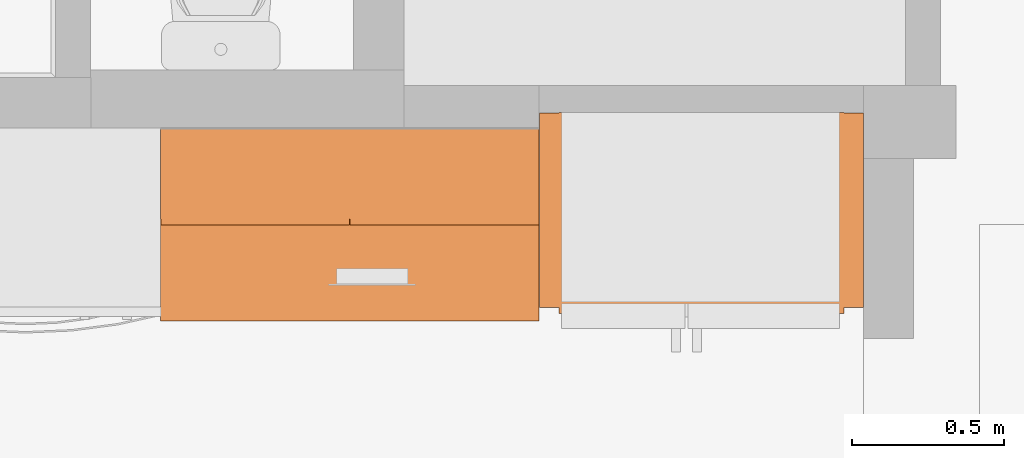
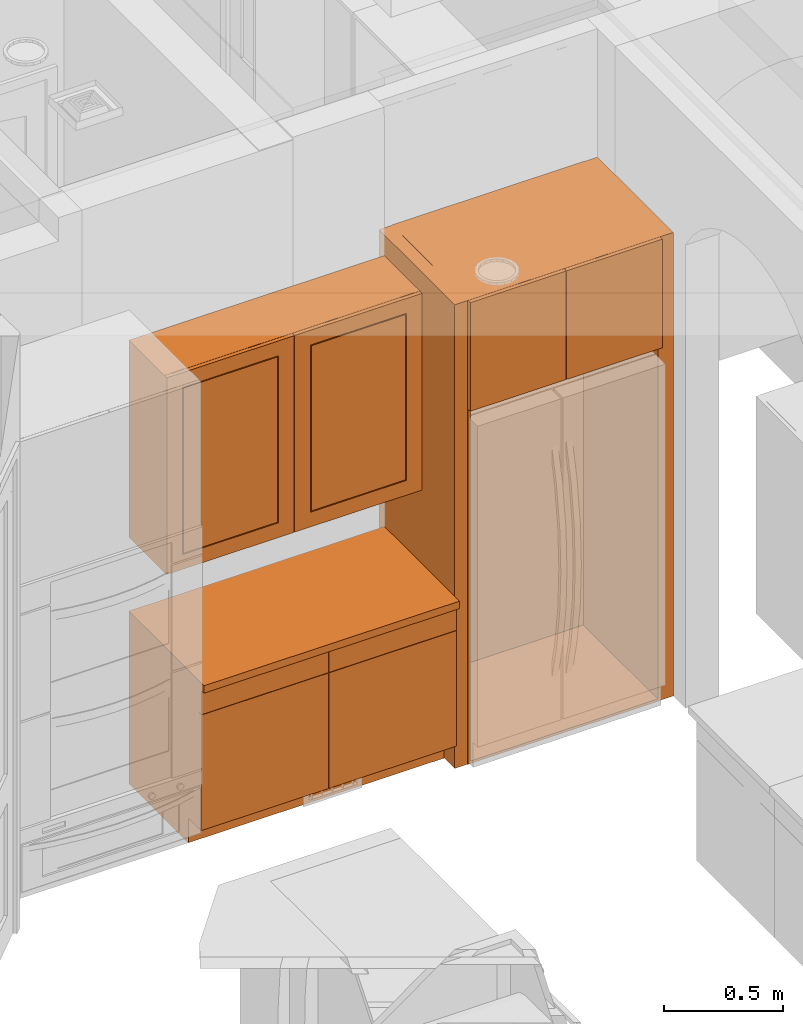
# One storey, part 68 of 77: 3 proxies.
"""IFC2X3 building model written with IfcOpenShell, lengths in inches."""

from ifc_helpers import new_model, entity, si_unit, converted_unit, derived_unit, money_unit, direction, frame, origin_with_axes, place, context, subcontext, project, spatial, faceted_brep, type_object, element, save


model = new_model("IFC2X3")

# Units and contexts
model_context = context("Model", 3, precision=0.000393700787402, world=origin_with_axes(), true_north=direction((0.0, 1.0)))
body_context = subcontext(model_context, "Body", "Model", "MODEL_VIEW")
ifc_project = project(units=[converted_unit("LENGTHUNIT", "INCH", entity("IfcPositiveLengthMeasure", 0.0254), si_unit("LENGTHUNIT", "METRE"), dimensions=[1, 0, 0, 0, 0, 0, 0]), converted_unit("AREAUNIT", "SQUARE_FOOT", entity("IfcPositiveLengthMeasure", 0.09290304), si_unit("AREAUNIT", "SQUARE_METRE"), dimensions=[2, 0, 0, 0, 0, 0, 0]), si_unit("PLANEANGLEUNIT", "RADIAN"), si_unit("SOLIDANGLEUNIT", "STERADIAN"), money_unit("USD"), converted_unit("TIMEUNIT", "Year", entity("IfcTimeMeasure", 31556926.0), si_unit("TIMEUNIT", "SECOND"), dimensions=[0, 0, 1, 0, 0, 0, 0]), si_unit("MASSUNIT", "GRAM", prefix="KILO"), si_unit("THERMODYNAMICTEMPERATUREUNIT", "DEGREE_CELSIUS"), si_unit("LUMINOUSINTENSITYUNIT", "LUMEN"), si_unit("ENERGYUNIT", "JOULE", prefix="MEGA"), derived_unit("THERMALCONDUCTANCEUNIT", [(si_unit("POWERUNIT", "WATT"), 1), (si_unit("LENGTHUNIT", "METRE"), -1), (si_unit("THERMODYNAMICTEMPERATUREUNIT", "KELVIN"), -1)]), derived_unit("SPECIFICHEATCAPACITYUNIT", [(si_unit("ENERGYUNIT", "JOULE"), 1), (si_unit("MASSUNIT", "GRAM", prefix="KILO"), -1), (si_unit("THERMODYNAMICTEMPERATUREUNIT", "KELVIN"), -1)]), derived_unit("MASSDENSITYUNIT", [(si_unit("MASSUNIT", "GRAM", prefix="KILO"), 1), (si_unit("VOLUMEUNIT", "CUBIC_METRE"), -1)])], contexts=[model_context])

# Site, building, storey
site_placement = place(None, origin_with_axes())
site = spatial("IfcSite", under=ifc_project, at=site_placement, Name="Site", CompositionType="ELEMENT")
building_placement = place(site_placement, origin_with_axes())
building = spatial("IfcBuilding", under=site, at=building_placement, Name="Building", CompositionType="ELEMENT")
storey_placement = place(building_placement, frame((0.0, 0.0, 127.952755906), z_axis=(0.0, 0.0, 1.0), x_axis=(1.0, 0.0, 0.0)))
storey = spatial("IfcBuildingStorey", under=building, at=storey_placement, Name="Second Floor", CompositionType="ELEMENT", Elevation=127.953)

# Proxies
building_element_proxy_type_1 = type_object("IfcBuildingElementProxyType", Name="Base Cabinet Block 25", PredefinedType="NOTDEFINED")
proxy_1_placement = place(storey_placement, frame((546.489615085, 408.408081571, 0.0), z_axis=(0.0, 0.0, 1.0), x_axis=(1.0, 0.0, 0.0)))
element("IfcBuildingElementProxy", 1, at=proxy_1_placement, inside=storey, type_object=building_element_proxy_type_1, Name="OBJ-16", context=body_context, shape_type="Brep", body=[
    faceted_brep([(0.0, -25.0, 33.5393700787), (49.0, -25.0, 33.5393700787), (49.0, -25.0, 35.0393700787), (0.0, -25.0, 35.0393700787), (0.0, 0.0, 33.5393700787), (49.0, 0.0, 33.5393700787), (49.0, 0.0, 35.0393700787), (0.0, 0.0, 35.0393700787)], [[[0, 1, 2, 3]], [[0, 4, 5, 1]], [[1, 5, 6, 2]], [[3, 2, 6, 7]], [[4, 0, 3, 7]], [[5, 4, 7, 6]]]),
    faceted_brep([(0.75, -23.25, 28.1289370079), (48.25, -23.25, 28.1289370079), (48.25, -23.25, 28.8789370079), (0.75, -23.25, 28.8789370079), (0.75, -0.75, 28.1289370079), (48.25, -0.75, 28.1289370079), (48.25, -0.75, 28.8789370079), (0.75, -0.75, 28.8789370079)], [[[0, 1, 2, 3]], [[0, 4, 5, 1]], [[1, 5, 6, 2]], [[3, 2, 6, 7]], [[4, 0, 3, 7]], [[5, 4, 7, 6]]]),
    faceted_brep([(0.0393700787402, -23.25, 5.03937007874), (24.4606299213, -23.25, 5.03937007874), (24.4606299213, -24.0, 5.03937007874), (0.0393700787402, -24.0, 5.03937007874), (0.0393700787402, -23.25, 28.4645669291), (24.4606299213, -23.25, 28.4645669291), (24.4606299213, -24.0, 28.4645669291), (0.0393700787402, -24.0, 28.4645669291)], [[[0, 1, 2, 3]], [[0, 4, 5, 1]], [[1, 5, 6, 2]], [[3, 2, 6, 7]], [[4, 0, 3, 7]], [[5, 4, 7, 6]]]),
    faceted_brep([(48.9606299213, -23.25, 5.03937007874), (48.9606299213, -24.0, 5.03937007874), (24.5393700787, -24.0, 5.03937007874), (24.5393700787, -23.25, 5.03937007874), (48.9606299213, -23.25, 28.4645669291), (48.9606299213, -24.0, 28.4645669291), (24.5393700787, -24.0, 28.4645669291), (24.5393700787, -23.25, 28.4645669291)], [[[0, 1, 2, 3]], [[4, 5, 1, 0]], [[1, 5, 6, 2]], [[3, 2, 6, 7]], [[0, 3, 7, 4]], [[7, 6, 5, 4]]]),
    faceted_brep([(0.0393700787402, -23.25, 28.5433070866), (24.4606299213, -23.25, 28.5433070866), (24.4606299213, -24.0, 28.5433070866), (0.0393700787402, -24.0, 28.5433070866), (0.0393700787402, -23.25, 33.5), (24.4606299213, -23.25, 33.5), (24.4606299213, -24.0, 33.5), (0.0393700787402, -24.0, 33.5)], [[[0, 1, 2, 3]], [[0, 4, 5, 1]], [[1, 5, 6, 2]], [[3, 2, 6, 7]], [[4, 0, 3, 7]], [[5, 4, 7, 6]]]),
    faceted_brep([(48.9606299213, -23.25, 28.5433070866), (48.9606299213, -24.0, 28.5433070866), (24.5393700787, -24.0, 28.5433070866), (24.5393700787, -23.25, 28.5433070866), (48.9606299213, -23.25, 33.5), (48.9606299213, -24.0, 33.5), (24.5393700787, -24.0, 33.5), (24.5393700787, -23.25, 33.5)], [[[0, 1, 2, 3]], [[4, 5, 1, 0]], [[1, 5, 6, 2]], [[3, 2, 6, 7]], [[0, 3, 7, 4]], [[7, 6, 5, 4]]]),
    faceted_brep([(0.75, -23.25, 5.0), (48.25, -23.25, 5.0), (48.25, -23.25, 5.75), (0.75, -23.25, 5.75), (0.75, 0.0, 5.0), (48.25, 0.0, 5.0), (48.25, 0.0, 5.75), (0.75, 0.0, 5.75)], [[[0, 1, 2, 3]], [[0, 4, 5, 1]], [[1, 5, 6, 2]], [[3, 2, 6, 7]], [[4, 0, 3, 7]], [[5, 4, 7, 6]]]),
    faceted_brep([(0.75, -23.25, 32.7893700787), (0.75, -20.8877952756, 32.7893700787), (48.25, -20.8877952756, 32.7893700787), (48.25, -23.25, 32.7893700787), (0.75, -23.25, 33.5393700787), (0.75, -20.8877952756, 33.5393700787), (48.25, -20.8877952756, 33.5393700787), (48.25, -23.25, 33.5393700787)], [[[0, 1, 2, 3]], [[0, 4, 5, 1]], [[1, 5, 6, 2]], [[3, 2, 6, 7]], [[4, 0, 3, 7]], [[5, 4, 7, 6]]]),
    faceted_brep([(48.25, 0.0, 32.7893700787), (48.25, -2.36220472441, 32.7893700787), (0.75, -2.36220472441, 32.7893700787), (0.75, 0.0, 32.7893700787), (48.25, 0.0, 33.5393700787), (48.25, -2.36220472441, 33.5393700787), (0.75, -2.36220472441, 33.5393700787), (0.75, 0.0, 33.5393700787)], [[[0, 1, 2, 3]], [[0, 4, 5, 1]], [[1, 5, 6, 2]], [[3, 2, 6, 7]], [[4, 0, 3, 7]], [[5, 4, 7, 6]]]),
    faceted_brep([(0.0, 0.0, 5.0), (0.0, -23.25, 5.0), (0.0, -23.25, 33.5393700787), (0.0, 0.0, 33.5393700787), (0.75, 0.0, 5.0), (0.75, -23.25, 5.0), (0.75, -23.25, 33.5393700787), (0.75, 0.0, 33.5393700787)], [[[0, 1, 2, 3]], [[0, 4, 5, 1]], [[1, 5, 6, 2]], [[3, 2, 6, 7]], [[4, 0, 3, 7]], [[5, 4, 7, 6]]]),
    faceted_brep([(49.0, -23.25, 5.0), (49.0, 0.0, 5.0), (49.0, 0.0, 33.5393700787), (49.0, -23.25, 33.5393700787), (48.25, -23.25, 5.0), (48.25, 0.0, 5.0), (48.25, 0.0, 33.5393700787), (48.25, -23.25, 33.5393700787)], [[[0, 1, 2, 3]], [[0, 4, 5, 1]], [[1, 5, 6, 2]], [[3, 2, 6, 7]], [[4, 0, 3, 7]], [[5, 4, 7, 6]]]),
    faceted_brep([(48.25, -0.375, 5.75), (0.75, -0.375, 5.75), (0.75, -0.375, 32.7893700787), (48.25, -0.375, 32.7893700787), (48.25, -0.75, 5.75), (0.75, -0.75, 5.75), (0.75, -0.75, 32.7893700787), (48.25, -0.75, 32.7893700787)], [[[0, 1, 2, 3]], [[0, 4, 5, 1]], [[1, 5, 6, 2]], [[3, 2, 6, 7]], [[4, 0, 3, 7]], [[5, 4, 7, 6]]]),
    faceted_brep([(0.0, -19.75, 0.0), (49.0, -19.75, 0.0), (49.0, -19.75, 5.0), (0.0, -19.75, 5.0), (0.0, 0.0, 0.0), (49.0, 0.0, 0.0), (49.0, 0.0, 5.0), (0.0, 0.0, 5.0)], [[[0, 1, 2, 3]], [[0, 4, 5, 1]], [[1, 5, 6, 2]], [[3, 2, 6, 7]], [[4, 0, 3, 7]], [[5, 4, 7, 6]]]),
])
building_element_proxy_type_2 = type_object("IfcBuildingElementProxyType", Name="Standing Cabinet Block 25", PredefinedType="NOTDEFINED")
proxy_2_placement = place(storey_placement, frame((595.552993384, 410.361283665, 0.0), z_axis=(0.0, 0.0, 1.0), x_axis=(1.0, 0.0, 0.0)))
element("IfcBuildingElementProxy", 2, at=proxy_2_placement, inside=storey, type_object=building_element_proxy_type_2, Name="OBJ-17", context=body_context, shape_type="Brep", body=[
    faceted_brep([(3.0, -25.25, 71.75), (38.9291338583, -25.25, 71.75), (38.9291338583, -25.25, 72.25), (3.0, -25.25, 72.25), (3.0, -0.5, 71.75), (38.9291338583, -0.5, 71.75), (38.9291338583, -0.5, 72.25), (3.0, -0.5, 72.25)], [[[0, 1, 2, 3]], [[0, 4, 5, 1]], [[1, 5, 6, 2]], [[3, 2, 6, 7]], [[4, 0, 3, 7]], [[5, 4, 7, 6]]]),
    faceted_brep([(2.53937007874, -25.25, 72.0393700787), (20.9251968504, -25.25, 72.0393700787), (20.9251968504, -26.0, 72.0393700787), (2.53937007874, -26.0, 72.0393700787), (2.53937007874, -25.25, 94.0551181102), (20.9251968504, -25.25, 94.0551181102), (20.9251968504, -26.0, 94.0551181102), (2.53937007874, -26.0, 94.0551181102)], [[[0, 1, 2, 3]], [[0, 4, 5, 1]], [[1, 5, 6, 2]], [[3, 2, 6, 7]], [[4, 0, 3, 7]], [[5, 4, 7, 6]]]),
    faceted_brep([(39.3897637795, -25.25, 72.0393700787), (39.3897637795, -26.0, 72.0393700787), (21.0039370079, -26.0, 72.0393700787), (21.0039370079, -25.25, 72.0393700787), (39.3897637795, -25.25, 94.0551181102), (39.3897637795, -26.0, 94.0551181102), (21.0039370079, -26.0, 94.0551181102), (21.0039370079, -25.25, 94.0551181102)], [[[0, 1, 2, 3]], [[4, 5, 1, 0]], [[1, 5, 6, 2]], [[3, 2, 6, 7]], [[0, 3, 7, 4]], [[7, 6, 5, 4]]]),
    faceted_brep([(2.5, -0.0393700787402, 0.0393700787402), (2.5, -25.2106299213, 0.0393700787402), (0.0, -25.2106299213, 0.0393700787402), (0.0, -0.0393700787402, 0.0393700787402), (2.5, -0.0393700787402, 94.0551181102), (2.5, -25.2106299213, 94.0551181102), (0.0, -25.2106299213, 94.0551181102), (0.0, -0.0393700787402, 94.0551181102)], [[[0, 1, 2, 3]], [[0, 4, 5, 1]], [[1, 5, 6, 2]], [[3, 2, 6, 7]], [[4, 0, 3, 7]], [[5, 4, 7, 6]]]),
    faceted_brep([(39.4291338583, -25.2106299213, 0.0393700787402), (39.4291338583, -0.0393700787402, 0.0393700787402), (41.9291338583, -0.0393700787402, 0.0393700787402), (41.9291338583, -25.2106299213, 0.0393700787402), (39.4291338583, -25.2106299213, 94.0551181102), (39.4291338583, -0.0393700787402, 94.0551181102), (41.9291338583, -0.0393700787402, 94.0551181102), (41.9291338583, -25.2106299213, 94.0551181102)], [[[0, 1, 2, 3]], [[0, 4, 5, 1]], [[1, 5, 6, 2]], [[3, 2, 6, 7]], [[4, 0, 3, 7]], [[5, 4, 7, 6]]]),
    faceted_brep([(3.0, -25.25, 0.0), (38.9291338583, -25.25, 0.0), (38.9291338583, -25.25, 0.5), (3.0, -25.25, 0.5), (3.0, 0.0, 0.0), (38.9291338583, 0.0, 0.0), (38.9291338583, 0.0, 0.5), (3.0, 0.0, 0.5)], [[[0, 1, 2, 3]], [[0, 4, 5, 1]], [[1, 5, 6, 2]], [[3, 2, 6, 7]], [[4, 0, 3, 7]], [[5, 4, 7, 6]]]),
    faceted_brep([(3.0, -25.25, 93.594488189), (38.9291338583, -25.25, 93.594488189), (38.9291338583, -25.25, 94.094488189), (3.0, -25.25, 94.094488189), (3.0, 0.0, 93.594488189), (38.9291338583, 0.0, 93.594488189), (38.9291338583, 0.0, 94.094488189), (3.0, 0.0, 94.094488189)], [[[0, 1, 2, 3]], [[0, 4, 5, 1]], [[1, 5, 6, 2]], [[3, 2, 6, 7]], [[4, 0, 3, 7]], [[5, 4, 7, 6]]]),
    faceted_brep([(2.5, 0.0, 0.0), (2.5, -25.25, 0.0), (2.5, -25.25, 94.094488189), (2.5, 0.0, 94.094488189), (3.0, 0.0, 0.0), (3.0, -25.25, 0.0), (3.0, -25.25, 94.094488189), (3.0, 0.0, 94.094488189)], [[[0, 1, 2, 3]], [[0, 4, 5, 1]], [[1, 5, 6, 2]], [[3, 2, 6, 7]], [[4, 0, 3, 7]], [[5, 4, 7, 6]]]),
    faceted_brep([(39.4291338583, -25.25, 0.0), (39.4291338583, 0.0, 0.0), (39.4291338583, 0.0, 94.094488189), (39.4291338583, -25.25, 94.094488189), (38.9291338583, -25.25, 0.0), (38.9291338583, 0.0, 0.0), (38.9291338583, 0.0, 94.094488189), (38.9291338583, -25.25, 94.094488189)], [[[0, 1, 2, 3]], [[0, 4, 5, 1]], [[1, 5, 6, 2]], [[3, 2, 6, 7]], [[4, 0, 3, 7]], [[5, 4, 7, 6]]]),
    faceted_brep([(38.9291338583, -0.25, 0.5), (3.0, -0.25, 0.5), (3.0, -0.25, 93.594488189), (38.9291338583, -0.25, 93.594488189), (38.9291338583, -0.5, 0.5), (3.0, -0.5, 0.5), (3.0, -0.5, 93.594488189), (38.9291338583, -0.5, 93.594488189)], [[[0, 1, 2, 3]], [[0, 4, 5, 1]], [[1, 5, 6, 2]], [[3, 2, 6, 7]], [[4, 0, 3, 7]], [[5, 4, 7, 6]]]),
])
building_element_proxy_type_3 = type_object("IfcBuildingElementProxyType", Name="Wall Cabinet Block 25", PredefinedType="NOTDEFINED")
proxy_3_placement = place(storey_placement, frame((546.489615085, 408.408081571, -10.0), z_axis=(0.0, 0.0, 1.0), x_axis=(1.0, 0.0, 0.0)))
element("IfcBuildingElementProxy", 3, at=proxy_3_placement, inside=storey, type_object=building_element_proxy_type_3, Name="OBJ-21", context=body_context, shape_type="Brep", body=[
    faceted_brep([(0.75, -11.811023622, 73.0702099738), (48.25, -11.811023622, 73.0702099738), (48.25, -11.811023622, 73.8202099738), (0.75, -11.811023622, 73.8202099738), (0.75, -0.75, 73.0702099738), (48.25, -0.75, 73.0702099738), (48.25, -0.75, 73.8202099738), (0.75, -0.75, 73.8202099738)], [[[0, 1, 2, 3]], [[0, 4, 5, 1]], [[1, 5, 6, 2]], [[3, 2, 6, 7]], [[4, 0, 3, 7]], [[5, 4, 7, 6]]]),
    faceted_brep([(0.75, -11.811023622, 86.1404199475), (48.25, -11.811023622, 86.1404199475), (48.25, -11.811023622, 86.8904199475), (0.75, -11.811023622, 86.8904199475), (0.75, -0.75, 86.1404199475), (48.25, -0.75, 86.1404199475), (48.25, -0.75, 86.8904199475), (0.75, -0.75, 86.8904199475)], [[[0, 1, 2, 3]], [[0, 4, 5, 1]], [[1, 5, 6, 2]], [[3, 2, 6, 7]], [[4, 0, 3, 7]], [[5, 4, 7, 6]]]),
    faceted_brep([(0.0393700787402, -12.561023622, 60.0393700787), (0.0393700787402, -12.561023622, 99.9212598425), (0.0393700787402, -11.811023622, 99.9212598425), (0.0393700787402, -11.811023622, 60.0393700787), (3.03937007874, -12.561023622, 63.0393700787), (3.03937007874, -12.561023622, 96.9212598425), (3.03937007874, -11.811023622, 96.9212598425), (3.03937007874, -11.811023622, 63.0393700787)], [[[0, 1, 2, 3]], [[1, 0, 4, 5]], [[2, 1, 5, 6]], [[3, 2, 6, 7]], [[0, 3, 7, 4]], [[5, 4, 7, 6]]]),
    faceted_brep([(21.4606299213, -12.561023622, 63.0393700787), (21.4606299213, -12.561023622, 96.9212598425), (21.4606299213, -11.811023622, 96.9212598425), (21.4606299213, -11.811023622, 63.0393700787), (24.4606299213, -12.561023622, 60.0393700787), (24.4606299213, -12.561023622, 99.9212598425), (24.4606299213, -11.811023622, 99.9212598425), (24.4606299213, -11.811023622, 60.0393700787)], [[[0, 1, 2, 3]], [[1, 0, 4, 5]], [[2, 1, 5, 6]], [[3, 2, 6, 7]], [[0, 3, 7, 4]], [[5, 4, 7, 6]]]),
    faceted_brep([(0.0393700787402, -11.811023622, 60.0393700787), (0.0393700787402, -12.561023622, 60.0393700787), (3.03937007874, -12.561023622, 63.0393700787), (3.03937007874, -11.811023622, 63.0393700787), (24.4606299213, -11.811023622, 60.0393700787), (24.4606299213, -12.561023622, 60.0393700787), (21.4606299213, -12.561023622, 63.0393700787), (21.4606299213, -11.811023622, 63.0393700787)], [[[0, 1, 2, 3]], [[1, 0, 4, 5]], [[2, 1, 5, 6]], [[7, 3, 2, 6]], [[0, 3, 7, 4]], [[7, 6, 5, 4]]]),
    faceted_brep([(21.4606299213, -11.811023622, 96.9212598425), (3.03937007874, -11.811023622, 96.9212598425), (0.0393700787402, -11.811023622, 99.9212598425), (24.4606299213, -11.811023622, 99.9212598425), (21.4606299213, -12.561023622, 96.9212598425), (3.03937007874, -12.561023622, 96.9212598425), (0.0393700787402, -12.561023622, 99.9212598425), (24.4606299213, -12.561023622, 99.9212598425)], [[[0, 1, 2, 3]], [[1, 0, 4, 5]], [[5, 6, 2, 1]], [[2, 6, 7, 3]], [[4, 0, 3, 7]], [[6, 5, 4, 7]]]),
    faceted_brep([(3.03937007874, -11.998523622, 63.0393700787), (3.03937007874, -11.998523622, 96.9212598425), (21.4606299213, -11.998523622, 96.9212598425), (21.4606299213, -11.998523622, 63.0393700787), (3.0393700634, -12.373523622, 63.0393700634), (3.0393700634, -12.373523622, 96.9212598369), (21.4606299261, -12.373523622, 96.9212598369), (21.4606299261, -12.373523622, 63.0393700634), (3.22687004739, -12.561023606, 63.2268700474), (3.22687004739, -12.561023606, 96.7337598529), (21.2731299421, -12.561023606, 96.7337598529), (21.2731299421, -12.561023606, 63.2268700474)], [[[0, 1, 2, 3]], [[1, 0, 4, 5]], [[2, 1, 5, 6]], [[3, 2, 6, 7]], [[0, 3, 7, 4]], [[5, 4, 8, 9]], [[6, 5, 9, 10]], [[7, 6, 10, 11]], [[4, 7, 11, 8]], [[10, 9, 8, 11]]]),
    faceted_brep([(45.9606299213, -12.561023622, 63.0393700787), (45.9606299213, -12.561023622, 96.9212598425), (45.9606299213, -11.811023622, 96.9212598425), (45.9606299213, -11.811023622, 63.0393700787), (48.9606299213, -12.561023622, 60.0393700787), (48.9606299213, -12.561023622, 99.9212598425), (48.9606299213, -11.811023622, 99.9212598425), (48.9606299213, -11.811023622, 60.0393700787)], [[[0, 1, 2, 3]], [[1, 0, 4, 5]], [[2, 1, 5, 6]], [[3, 2, 6, 7]], [[0, 3, 7, 4]], [[5, 4, 7, 6]]]),
    faceted_brep([(24.5393700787, -12.561023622, 60.0393700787), (24.5393700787, -12.561023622, 99.9212598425), (24.5393700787, -11.811023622, 99.9212598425), (24.5393700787, -11.811023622, 60.0393700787), (27.5393700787, -12.561023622, 63.0393700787), (27.5393700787, -12.561023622, 96.9212598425), (27.5393700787, -11.811023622, 96.9212598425), (27.5393700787, -11.811023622, 63.0393700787)], [[[0, 1, 2, 3]], [[1, 0, 4, 5]], [[2, 1, 5, 6]], [[3, 2, 6, 7]], [[0, 3, 7, 4]], [[5, 4, 7, 6]]]),
    faceted_brep([(24.5393700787, -11.811023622, 60.0393700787), (24.5393700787, -12.561023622, 60.0393700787), (27.5393700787, -12.561023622, 63.0393700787), (27.5393700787, -11.811023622, 63.0393700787), (48.9606299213, -11.811023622, 60.0393700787), (48.9606299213, -12.561023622, 60.0393700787), (45.9606299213, -12.561023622, 63.0393700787), (45.9606299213, -11.811023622, 63.0393700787)], [[[0, 1, 2, 3]], [[1, 0, 4, 5]], [[2, 1, 5, 6]], [[7, 3, 2, 6]], [[0, 3, 7, 4]], [[7, 6, 5, 4]]]),
    faceted_brep([(24.5393700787, -12.561023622, 99.9212598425), (24.5393700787, -11.811023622, 99.9212598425), (27.5393700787, -11.811023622, 96.9212598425), (27.5393700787, -12.561023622, 96.9212598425), (48.9606299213, -12.561023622, 99.9212598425), (48.9606299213, -11.811023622, 99.9212598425), (45.9606299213, -11.811023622, 96.9212598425), (45.9606299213, -12.561023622, 96.9212598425)], [[[0, 1, 2, 3]], [[1, 0, 4, 5]], [[2, 1, 5, 6]], [[2, 6, 7, 3]], [[0, 3, 7, 4]], [[7, 6, 5, 4]]]),
    faceted_brep([(45.9606299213, -11.998523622, 63.0393700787), (27.5393700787, -11.998523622, 63.0393700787), (27.5393700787, -11.998523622, 96.9212598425), (45.9606299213, -11.998523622, 96.9212598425), (45.9606299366, -12.373523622, 63.0393700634), (27.5393700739, -12.373523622, 63.0393700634), (27.5393700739, -12.373523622, 96.9212598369), (45.9606299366, -12.373523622, 96.9212598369), (45.7731299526, -12.561023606, 63.2268700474), (27.7268700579, -12.561023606, 63.2268700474), (27.7268700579, -12.561023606, 96.7337598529), (45.7731299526, -12.561023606, 96.7337598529)], [[[0, 1, 2, 3]], [[0, 4, 5, 1]], [[1, 5, 6, 2]], [[2, 6, 7, 3]], [[3, 7, 4, 0]], [[4, 8, 9, 5]], [[5, 9, 10, 6]], [[6, 10, 11, 7]], [[7, 11, 8, 4]], [[10, 9, 8, 11]]]),
    faceted_brep([(0.75, -11.811023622, 60.0), (48.25, -11.811023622, 60.0), (48.25, -11.811023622, 60.75), (0.75, -11.811023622, 60.75), (0.75, 0.0, 60.0), (48.25, 0.0, 60.0), (48.25, 0.0, 60.75), (0.75, 0.0, 60.75)], [[[0, 1, 2, 3]], [[0, 4, 5, 1]], [[1, 5, 6, 2]], [[3, 2, 6, 7]], [[4, 0, 3, 7]], [[5, 4, 7, 6]]]),
    faceted_brep([(0.75, -11.811023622, 99.2106299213), (48.25, -11.811023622, 99.2106299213), (48.25, -11.811023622, 99.9606299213), (0.75, -11.811023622, 99.9606299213), (0.75, 0.0, 99.2106299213), (48.25, 0.0, 99.2106299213), (48.25, 0.0, 99.9606299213), (0.75, 0.0, 99.9606299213)], [[[0, 1, 2, 3]], [[0, 4, 5, 1]], [[1, 5, 6, 2]], [[3, 2, 6, 7]], [[4, 0, 3, 7]], [[5, 4, 7, 6]]]),
    faceted_brep([(0.0, 0.0, 60.0), (0.0, -11.811023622, 60.0), (0.0, -11.811023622, 99.9606299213), (0.0, 0.0, 99.9606299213), (0.75, 0.0, 60.0), (0.75, -11.811023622, 60.0), (0.75, -11.811023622, 99.9606299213), (0.75, 0.0, 99.9606299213)], [[[0, 1, 2, 3]], [[0, 4, 5, 1]], [[1, 5, 6, 2]], [[3, 2, 6, 7]], [[4, 0, 3, 7]], [[5, 4, 7, 6]]]),
    faceted_brep([(49.0, -11.811023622, 60.0), (49.0, 0.0, 60.0), (49.0, 0.0, 99.9606299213), (49.0, -11.811023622, 99.9606299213), (48.25, -11.811023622, 60.0), (48.25, 0.0, 60.0), (48.25, 0.0, 99.9606299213), (48.25, -11.811023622, 99.9606299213)], [[[0, 1, 2, 3]], [[0, 4, 5, 1]], [[1, 5, 6, 2]], [[3, 2, 6, 7]], [[4, 0, 3, 7]], [[5, 4, 7, 6]]]),
    faceted_brep([(48.25, -0.375, 60.75), (0.75, -0.375, 60.75), (0.75, -0.375, 99.2106299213), (48.25, -0.375, 99.2106299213), (48.25, -0.75, 60.75), (0.75, -0.75, 60.75), (0.75, -0.75, 99.2106299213), (48.25, -0.75, 99.2106299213)], [[[0, 1, 2, 3]], [[0, 4, 5, 1]], [[1, 5, 6, 2]], [[3, 2, 6, 7]], [[4, 0, 3, 7]], [[5, 4, 7, 6]]]),
])

save(model, "model.ifc")
